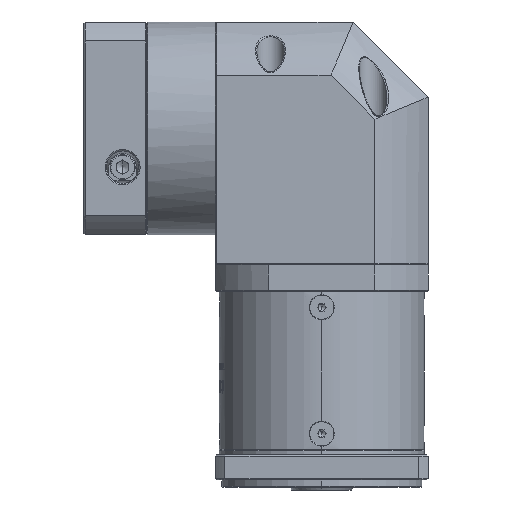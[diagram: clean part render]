
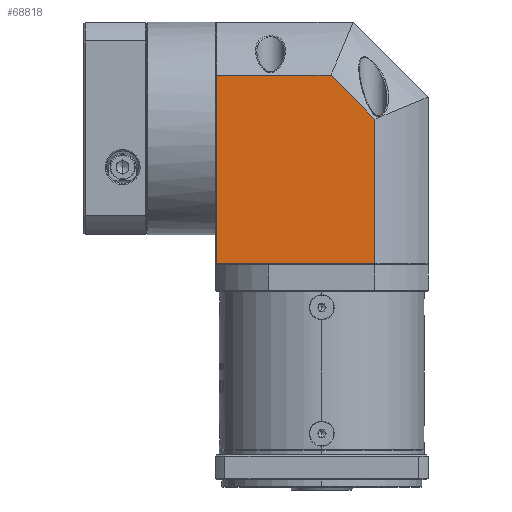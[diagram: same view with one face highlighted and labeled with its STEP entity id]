
A CAD part, left-side view. The second image highlights one B-rep face of the part: STEP entity #68818.
In plain terms, the highlighted planar face has unit normal (-1, 0, 0).
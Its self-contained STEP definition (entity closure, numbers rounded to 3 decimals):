
#7112 = AXIS2_PLACEMENT_3D ( 'NONE', #24433, #117070, #37708 ) ;
#9836 = EDGE_CURVE ( 'NONE', #148000, #116010, #50510, .T. ) ;
#11206 = EDGE_CURVE ( 'NONE', #148000, #149438, #82251, .T. ) ;
#12674 = FACE_OUTER_BOUND ( 'NONE', #39593, .T. ) ;
#17071 = ORIENTED_EDGE ( 'NONE', *, *, #128646, .F. ) ;
#24433 = CARTESIAN_POINT ( 'NONE',  ( -129.934, 75.993, 129.938 ) ) ;
#29327 = CARTESIAN_POINT ( 'NONE',  ( -129.934, 29.81, 108.651 ) ) ;
#32827 = VERTEX_POINT ( 'NONE', #167966 ) ;
#37149 = PLANE ( 'NONE',  #7112 ) ;
#37708 = DIRECTION ( 'NONE',  ( 0., 1., 0. ) ) ;
#38926 = DIRECTION ( 'NONE',  ( 0., 0., 1. ) ) ;
#39593 = EDGE_LOOP ( 'NONE', ( #76601, #165477, #95489, #17071, #142786 ) ) ;
#49959 = DIRECTION ( 'NONE',  ( 0., 0., -1. ) ) ;
#50510 = LINE ( 'NONE', #72190, #151890 ) ;
#57078 = CARTESIAN_POINT ( 'NONE',  ( -129.934, 29.81, 108.651 ) ) ;
#59742 = VECTOR ( 'NONE', #65919, 1000. ) ;
#60154 = VECTOR ( 'NONE', #95230, 1000. ) ;
#65919 = DIRECTION ( 'NONE',  ( 0., -1., 0. ) ) ;
#68818 = ADVANCED_FACE ( 'NONE', ( #12674 ), #37149, .F. ) ;
#72190 = CARTESIAN_POINT ( 'NONE',  ( -129.934, 75.993, 33.438 ) ) ;
#76601 = ORIENTED_EDGE ( 'NONE', *, *, #9836, .T. ) ;
#82251 = LINE ( 'NONE', #118313, #113339 ) ;
#85480 = DIRECTION ( 'NONE',  ( 0., -1., 0. ) ) ;
#94994 = LINE ( 'NONE', #118652, #59742 ) ;
#95230 = DIRECTION ( 'NONE',  ( 0., -0.707, -0.707 ) ) ;
#95489 = ORIENTED_EDGE ( 'NONE', *, *, #131486, .F. ) ;
#101699 = LINE ( 'NONE', #142487, #136836 ) ;
#113339 = VECTOR ( 'NONE', #38926, 1000. ) ;
#113924 = CARTESIAN_POINT ( 'NONE',  ( -129.934, 12.28, 33.438 ) ) ;
#116010 = VERTEX_POINT ( 'NONE', #113924 ) ;
#117070 = DIRECTION ( 'NONE',  ( 1., 0., 0. ) ) ;
#118313 = CARTESIAN_POINT ( 'NONE',  ( -129.934, 75.493, 129.938 ) ) ;
#118652 = CARTESIAN_POINT ( 'NONE',  ( -129.934, 75.993, 108.651 ) ) ;
#128646 = EDGE_CURVE ( 'NONE', #149438, #140529, #94994, .T. ) ;
#130579 = LINE ( 'NONE', #29327, #60154 ) ;
#131486 = EDGE_CURVE ( 'NONE', #140529, #32827, #130579, .T. ) ;
#136836 = VECTOR ( 'NONE', #49959, 1000. ) ;
#140529 = VERTEX_POINT ( 'NONE', #57078 ) ;
#142487 = CARTESIAN_POINT ( 'NONE',  ( -129.934, 12.28, 133.438 ) ) ;
#142786 = ORIENTED_EDGE ( 'NONE', *, *, #11206, .F. ) ;
#146325 = CARTESIAN_POINT ( 'NONE',  ( -129.934, 75.493, 108.651 ) ) ;
#148000 = VERTEX_POINT ( 'NONE', #162995 ) ;
#149438 = VERTEX_POINT ( 'NONE', #146325 ) ;
#151890 = VECTOR ( 'NONE', #85480, 1000. ) ;
#162995 = CARTESIAN_POINT ( 'NONE',  ( -129.934, 75.493, 33.438 ) ) ;
#165477 = ORIENTED_EDGE ( 'NONE', *, *, #165532, .F. ) ;
#165532 = EDGE_CURVE ( 'NONE', #32827, #116010, #101699, .T. ) ;
#167966 = CARTESIAN_POINT ( 'NONE',  ( -129.934, 12.28, 91.121 ) ) ;
